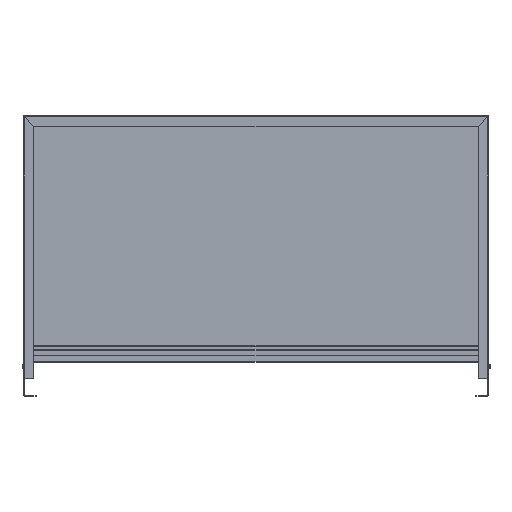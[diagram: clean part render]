
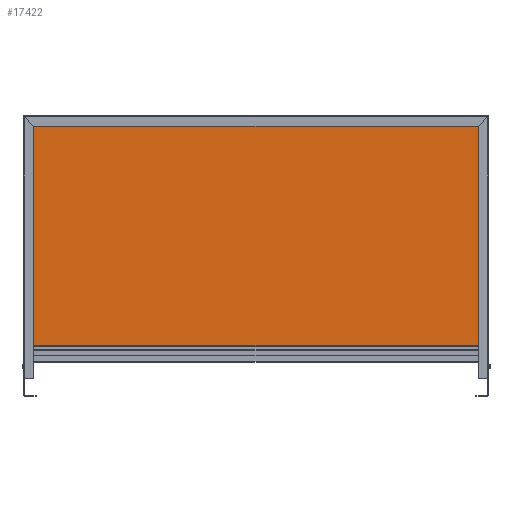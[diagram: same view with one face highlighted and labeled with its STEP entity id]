
A CAD part, front view. The second image highlights one B-rep face of the part: STEP entity #17422.
In plain terms, the highlighted planar face has unit normal (0, -1, 0).
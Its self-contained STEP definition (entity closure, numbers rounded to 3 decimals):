
#12334=CARTESIAN_POINT('',(-550.5,0.8,81.8));
#12335=VERTEX_POINT('',#12334);
#12368=CARTESIAN_POINT('',(-572.771,0.8,647.2));
#12369=VERTEX_POINT('',#12368);
#12399=CARTESIAN_POINT('',(-550.5,0.8,624.929));
#12400=VERTEX_POINT('',#12399);
#12407=CARTESIAN_POINT('',(-550.5,0.8,624.929));
#12408=DIRECTION('',(-0.707,0.,0.707));
#12409=VECTOR('',#12408,31.496);
#12410=LINE('',#12407,#12409);
#12411=EDGE_CURVE('',#12400,#12369,#12410,.T.);
#12436=CARTESIAN_POINT('',(-550.5,0.8,624.929));
#12437=DIRECTION('',(0.,-0.,-1.));
#12438=VECTOR('',#12437,543.129);
#12439=LINE('',#12436,#12438);
#12440=EDGE_CURVE('',#12400,#12335,#12439,.T.);
#12592=CARTESIAN_POINT('',(550.5,0.8,81.8));
#12593=VERTEX_POINT('',#12592);
#12608=CARTESIAN_POINT('',(572.771,0.8,647.2));
#12609=VERTEX_POINT('',#12608);
#12662=CARTESIAN_POINT('',(550.5,0.8,624.929));
#12663=VERTEX_POINT('',#12662);
#12664=CARTESIAN_POINT('',(572.771,0.8,647.2));
#12665=DIRECTION('',(-0.707,-0.,-0.707));
#12666=VECTOR('',#12665,31.496);
#12667=LINE('',#12664,#12666);
#12668=EDGE_CURVE('',#12609,#12663,#12667,.T.);
#12686=CARTESIAN_POINT('',(550.5,0.8,81.8));
#12687=DIRECTION('',(0.,-0.,1.));
#12688=VECTOR('',#12687,543.129);
#12689=LINE('',#12686,#12688);
#12690=EDGE_CURVE('',#12593,#12663,#12689,.T.);
#12848=CARTESIAN_POINT('',(-572.629,0.8,647.2));
#12849=VERTEX_POINT('',#12848);
#12856=CARTESIAN_POINT('',(-550.429,0.8,625.));
#12857=VERTEX_POINT('',#12856);
#12858=CARTESIAN_POINT('',(-572.629,0.8,647.2));
#12859=DIRECTION('',(0.707,-0.,-0.707));
#12860=VECTOR('',#12859,31.396);
#12861=LINE('',#12858,#12860);
#12862=EDGE_CURVE('',#12849,#12857,#12861,.T.);
#12909=CARTESIAN_POINT('',(572.629,0.8,647.2));
#12910=VERTEX_POINT('',#12909);
#12941=CARTESIAN_POINT('',(550.429,0.8,625.));
#12942=VERTEX_POINT('',#12941);
#12949=CARTESIAN_POINT('',(550.429,0.8,625.));
#12950=DIRECTION('',(0.707,0.,0.707));
#12951=VECTOR('',#12950,31.396);
#12952=LINE('',#12949,#12951);
#12953=EDGE_CURVE('',#12942,#12910,#12952,.T.);
#12972=CARTESIAN_POINT('',(550.429,0.8,625.));
#12973=DIRECTION('',(-1.,0.,0.));
#12974=VECTOR('',#12973,1100.859);
#12975=LINE('',#12972,#12974);
#12976=EDGE_CURVE('',#12942,#12857,#12975,.T.);
#17390=CARTESIAN_POINT('',(0.,0.8,0.));
#17391=DIRECTION('',(0.,1.,0.));
#17392=DIRECTION('',(-1.,0.,0.));
#17393=AXIS2_PLACEMENT_3D('',#17390,#17391,#17392);
#17394=PLANE('',#17393);
#17395=ORIENTED_EDGE('',*,*,#12411,.F.);
#17396=ORIENTED_EDGE('',*,*,#12440,.T.);
#17397=CARTESIAN_POINT('',(550.5,0.8,81.8));
#17398=DIRECTION('',(-1.,0.,0.));
#17399=VECTOR('',#17398,1101.);
#17400=LINE('',#17397,#17399);
#17401=EDGE_CURVE('',#12593,#12335,#17400,.T.);
#17402=ORIENTED_EDGE('',*,*,#17401,.F.);
#17403=ORIENTED_EDGE('',*,*,#12690,.T.);
#17404=ORIENTED_EDGE('',*,*,#12668,.F.);
#17405=CARTESIAN_POINT('',(572.629,0.8,647.2));
#17406=DIRECTION('',(1.,0.,-0.));
#17407=VECTOR('',#17406,0.141);
#17408=LINE('',#17405,#17407);
#17409=EDGE_CURVE('',#12910,#12609,#17408,.T.);
#17410=ORIENTED_EDGE('',*,*,#17409,.F.);
#17411=ORIENTED_EDGE('',*,*,#12953,.F.);
#17412=ORIENTED_EDGE('',*,*,#12976,.T.);
#17413=ORIENTED_EDGE('',*,*,#12862,.F.);
#17414=CARTESIAN_POINT('',(-572.771,0.8,647.2));
#17415=DIRECTION('',(1.,0.,-0.));
#17416=VECTOR('',#17415,0.141);
#17417=LINE('',#17414,#17416);
#17418=EDGE_CURVE('',#12369,#12849,#17417,.T.);
#17419=ORIENTED_EDGE('',*,*,#17418,.F.);
#17420=EDGE_LOOP('',(#17395,#17396,#17402,#17403,#17404,#17410,#17411,#17412,#17413,#17419));
#17421=FACE_BOUND('',#17420,.T.);
#17422=ADVANCED_FACE('',(#17421),#17394,.F.);
